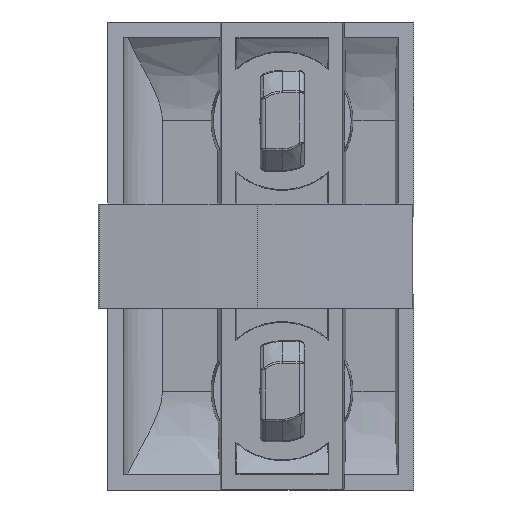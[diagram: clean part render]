
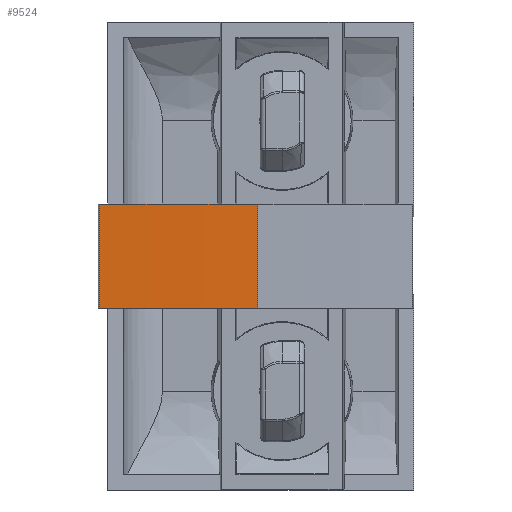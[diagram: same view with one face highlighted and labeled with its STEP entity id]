
A CAD part, left-side view. The second image highlights one B-rep face of the part: STEP entity #9524.
In plain terms, the highlighted cylindrical face has radius 450.8 mm (diameter 901.6 mm), a partial arc.
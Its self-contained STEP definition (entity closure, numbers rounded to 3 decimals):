
#99 = EDGE_CURVE ( 'NONE', #8384, #7085, #1211, .T. ) ;
#250 = EDGE_CURVE ( 'NONE', #7085, #11257, #1134, .T. ) ;
#513 = DIRECTION ( 'NONE',  ( -1., 0., 0. ) ) ;
#1134 = CIRCLE ( 'NONE', #4496, 450.8 ) ;
#1211 = LINE ( 'NONE', #6920, #13180 ) ;
#1615 = LINE ( 'NONE', #4655, #9215 ) ;
#2391 = ORIENTED_EDGE ( 'NONE', *, *, #99, .T. ) ;
#2501 = CARTESIAN_POINT ( 'NONE',  ( -10., 30., 0.3 ) ) ;
#2662 = CYLINDRICAL_SURFACE ( 'NONE', #5639, 450.8 ) ;
#2874 = ORIENTED_EDGE ( 'NONE', *, *, #250, .T. ) ;
#3989 = CARTESIAN_POINT ( 'NONE',  ( -10., 30., -450.5 ) ) ;
#4284 = VERTEX_POINT ( 'NONE', #4522 ) ;
#4489 = EDGE_CURVE ( 'NONE', #4284, #11257, #1615, .T. ) ;
#4496 = AXIS2_PLACEMENT_3D ( 'NONE', #3989, #13504, #8251 ) ;
#4522 = CARTESIAN_POINT ( 'NONE',  ( 10., 30., 0.3 ) ) ;
#4617 = EDGE_CURVE ( 'NONE', #8384, #4284, #6097, .T. ) ;
#4655 = CARTESIAN_POINT ( 'NONE',  ( 10., 30., 0.3 ) ) ;
#5639 = AXIS2_PLACEMENT_3D ( 'NONE', #6934, #7078, #5825 ) ;
#5825 = DIRECTION ( 'NONE',  ( 0., 0., 1. ) ) ;
#6097 = CIRCLE ( 'NONE', #6336, 450.8 ) ;
#6336 = AXIS2_PLACEMENT_3D ( 'NONE', #8259, #10207, #13356 ) ;
#6920 = CARTESIAN_POINT ( 'NONE',  ( 10., 60.488, -0.732 ) ) ;
#6934 = CARTESIAN_POINT ( 'NONE',  ( 10., 30., -450.5 ) ) ;
#7078 = DIRECTION ( 'NONE',  ( -1., 0., 0. ) ) ;
#7085 = VERTEX_POINT ( 'NONE', #8702 ) ;
#7696 = ORIENTED_EDGE ( 'NONE', *, *, #4489, .F. ) ;
#7962 = DIRECTION ( 'NONE',  ( -1., 0., 0. ) ) ;
#8251 = DIRECTION ( 'NONE',  ( 0., 0., -1. ) ) ;
#8259 = CARTESIAN_POINT ( 'NONE',  ( 10., 30., -450.5 ) ) ;
#8384 = VERTEX_POINT ( 'NONE', #10556 ) ;
#8702 = CARTESIAN_POINT ( 'NONE',  ( -10., 60.488, -0.732 ) ) ;
#9215 = VECTOR ( 'NONE', #513, 1000. ) ;
#9524 = ADVANCED_FACE ( 'NONE', ( #11419 ), #2662, .T. ) ;
#10000 = ORIENTED_EDGE ( 'NONE', *, *, #4617, .F. ) ;
#10207 = DIRECTION ( 'NONE',  ( 1., 0., 0. ) ) ;
#10556 = CARTESIAN_POINT ( 'NONE',  ( 10., 60.488, -0.732 ) ) ;
#11041 = EDGE_LOOP ( 'NONE', ( #7696, #10000, #2391, #2874 ) ) ;
#11257 = VERTEX_POINT ( 'NONE', #2501 ) ;
#11419 = FACE_OUTER_BOUND ( 'NONE', #11041, .T. ) ;
#13180 = VECTOR ( 'NONE', #7962, 1000. ) ;
#13356 = DIRECTION ( 'NONE',  ( 0., 0., -1. ) ) ;
#13504 = DIRECTION ( 'NONE',  ( 1., 0., 0. ) ) ;
